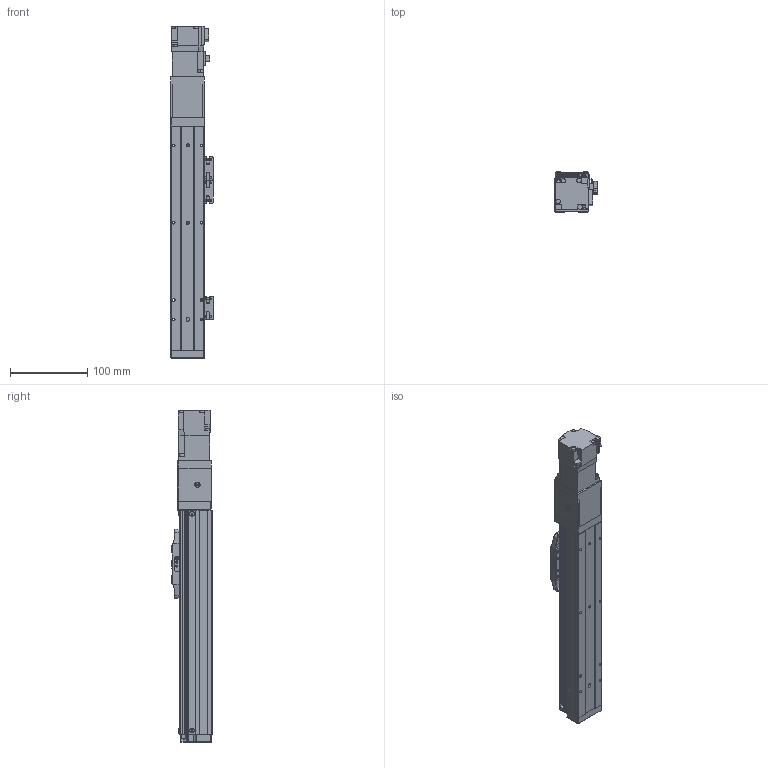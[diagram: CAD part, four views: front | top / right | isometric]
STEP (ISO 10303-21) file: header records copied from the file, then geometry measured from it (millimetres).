
FILE_DESCRIPTION (( 'STEP AP214' ), '1' );
FILE_NAME ('RGH4-XX-150-E-M05-C4.step', '2025-10-28T06:25:40', ( 'Microsoft' ), ( 'Microsoft' ), 'SwSTEP 2.0', 'SolidWorks 2018', '' );
FILE_SCHEMA (( 'AUTOMOTIVE_DESIGN' ));
Length unit declared in the file: millimetre
Products named in the file (1): RGH4-XX-150-E-M05-C4
Bounding box: 55.2 x 52 x 429.4 mm (x, y, z)
Volume: 697093.4 mm3; surface area: 156253.8 mm2
Topology: 51 solids, 51 shells, 1876 faces, 4388 edges, 2700 vertices
Faces by surface type: plane 1026, cylinder 453, cone 257, torus 132, sphere 8
Entity records: 74918 total; most frequent: CARTESIAN_POINT 9917, DIRECTION 9436, ORIENTED_EDGE 8704, EDGE_CURVE 4352, AXIS2_PLACEMENT_3D 3289, VECTOR 2858, LINE 2858, VERTEX_POINT 2696
